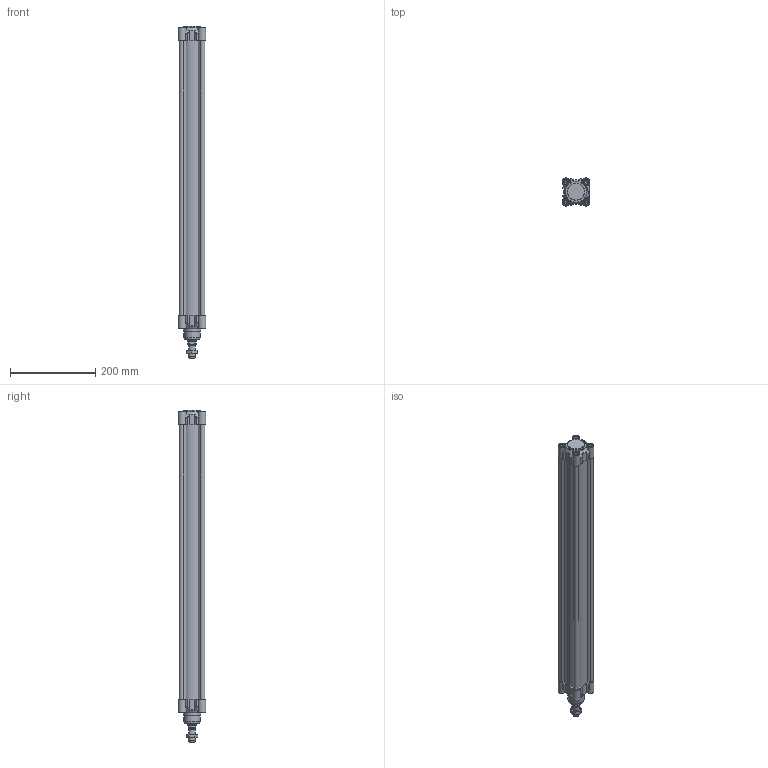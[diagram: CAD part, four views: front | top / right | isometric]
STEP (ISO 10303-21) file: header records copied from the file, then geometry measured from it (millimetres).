
FILE_DESCRIPTION(/* description */ ('Unknown'),/* implementation_level */ '2;1');
FILE_NAME(/* name */ 'HIF 50_600',/* time_stamp */ '2024-08-12T09:51:57+02:00',/* author */ ('Unknown'),/* organization */ ('Unknown'),/* preprocessor_version */ 'ST-DEVELOPER v16.7',/* originating_system */ 'Solid Edge',/* authorisation */ 'Unknown');
FILE_SCHEMA (('AUTOMOTIVE_DESIGN {1 0 10303 214 3 1 1}'));
Length unit declared in the file: millimetre
Products named in the file (6): HIF 50_600; Kit_2; Kit_1; Profilrohr 50_600; Kolbenstange 50_600; Mutter
Assembly tree (5 placements, depth 2):
  HIF 50_600
    Kit_2
    Kit_1
    Profilrohr 50_600
    Kolbenstange 50_600
    Mutter
Bounding box: 64.99 x 64.97 x 779 mm (x, y, z)
Volume: 994691.3 mm3; surface area: 512934.7 mm2
Topology: 5 solids, 19 shells, 1076 faces, 2677 edges, 1691 vertices
Faces by surface type: plane 385, cylinder 377, cone 106, torus 102, bspline 60, sphere 46
Full cylindrical faces by diameter (mm): 1.479 x2, 2.8 x2, 6.647 x16, 8 x8, 8.3 x8, 9 x2, 10 x2, 11.44 x2, 11.445 x2, 13 x8, 13.3 x8, 13.5 x1, 14.376 x1, 16 x1, 19.5 x1, 20 x2, 20.5 x1, 20.8 x1, 20.847 x1, 24 x2, 30 x2, 38 x1, 40 x2, 50 x2
Entity records: 40868 total; most frequent: CARTESIAN_POINT 10033, ORIENTED_EDGE 5152, DIRECTION 4858, EDGE_CURVE 2576, AXIS2_PLACEMENT_3D 1911, VERTEX_POINT 1673, FACE_BOUND 1231, EDGE_LOOP 1223
